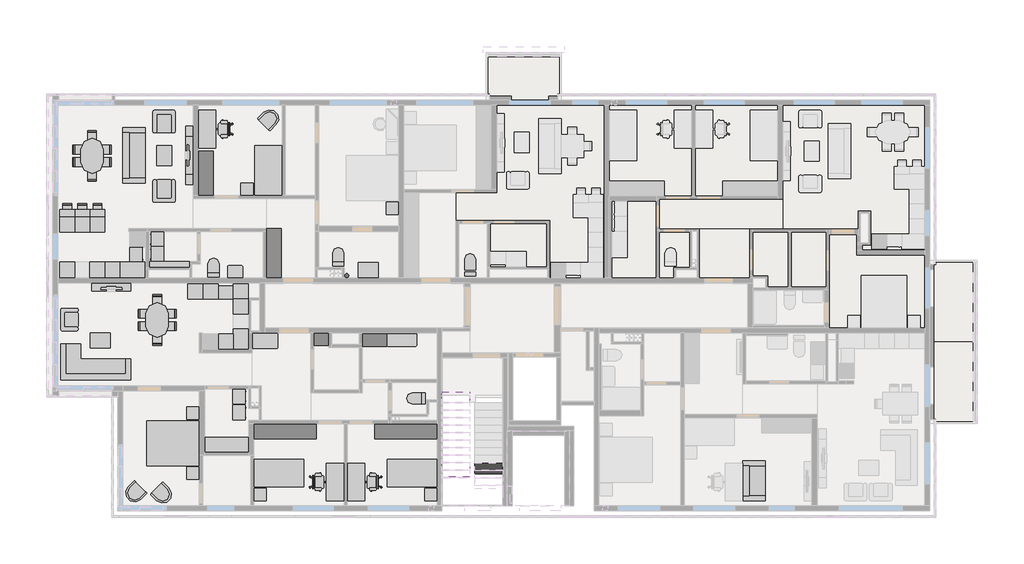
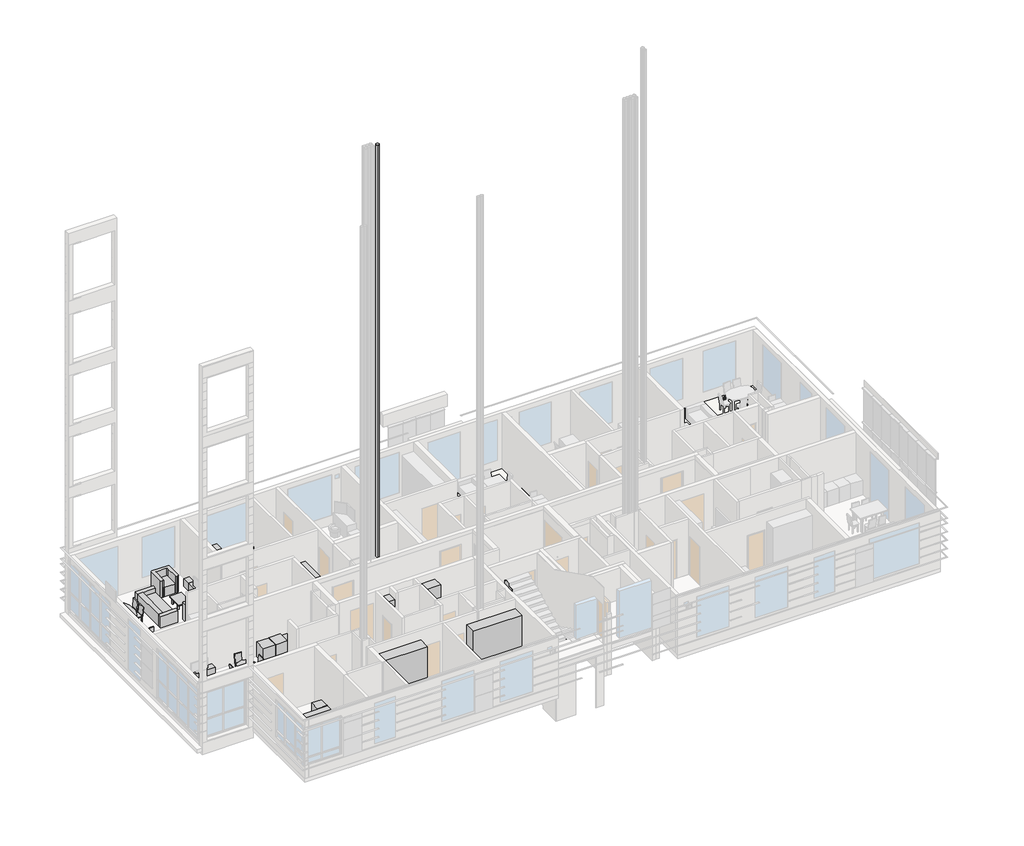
# One storey, part 12 of 14: 69 furniture elements, 16 flow terminals, 15 slabs, 2 beams.
"""IFC4 building model written with IfcOpenShell, lengths in millimetres."""

from ifc_helpers import new_model, si_unit, frame, origin, place, context, project, spatial, polyline, outline, extrude, faceted_brep, transform, mapped, element, save
from components import beam_4ecbd69a, flow_terminal_9331744f, flow_terminal_93b91fa1, flow_terminal_1200x500_5e356789, flow_terminal_600x500_7dece492, flow_terminal_600x500_14b84596, flow_terminal_600x600_a0c4e4de, flow_terminal_600x600_410a53bb, flow_terminal_600x600_aff60e7d, flow_terminal_600x600_852fcc23, flow_terminal_600x600_098c5d3b, default_cdd5ccfe, furniture_04e13bb0, furniture_eab48572, furniture_1670b5ab, furniture_2c33f32e, furniture_304a86e2, furniture_af5cb44b, furniture_a4c6fd55, furniture_1500x700_7e20c9bf, furniture_1500x700_44764a8b, furniture_1600_cdebd30f, furniture_2000x900_58b30379, furniture_2000x900_8549b6ce, furniture_2100x1800_e54d67c0, furniture_2200_2217fce5, furniture_2800_f949d8bc, furniture_500x2350_c66ae9e6, furniture_500x2350_ca4e032f, furniture_600x1000_2bf2b8fd, furniture_700x700_f96d27df, furniture_700x700_84888460, furniture_900x600_407b2405, furniture_900x900_cbd4ee99, furniture_900x_6df32213, chair_43e23103, chair_320c8197, default_57711184, default_49931e53, default_7369cba9, default_f6d1d0e9, default_af4afc4e, default_d325dcdd, default_733c536d, default_e9a682a2, default_90ec50a8, default_5d1f57f7, default_d962509c

model = new_model("IFC4")

# Units and contexts
model_context = context("Model", 3, world=origin())
ifc_project = project(units=[si_unit("LENGTHUNIT", "METRE", prefix="MILLI")], contexts=[model_context])

# Site, building, storey
site = spatial("IfcSite", under=ifc_project)
building = spatial("IfcBuilding", under=site)
storey = spatial("IfcBuildingStorey", under=building, Name="03_+7,700_Ж", Elevation=4500.0)

# Beams
placement = place(None, origin())
element("IfcBeam", 1, ObjectType="SF_марш монолитный с отделкой_3.4 : UP_300х150", at=placement, inside=storey, context=model_context, shape_type="Brep", body=[
    faceted_brep([(143230.0000002, 112432.2291223, 5920.0), (143230.0000002, 115689.9999987, 4291.1145618), (144350.0000002, 115689.9999987, 4291.1145618), (144350.0000002, 112432.2291223, 5920.0), (144350.0000002, 112289.9999987, 5920.0), (144350.0000002, 115689.9999987, 4470.0), (144350.0000002, 115689.9999987, 4620.0), (144350.0000002, 115389.9999987, 4620.0), (144350.0000002, 115389.9999987, 4770.0), (144350.0000002, 115089.9999987, 4770.0), (144350.0000002, 115089.9999987, 4920.0), (144350.0000002, 114789.9999987, 4920.0), (144350.0000002, 114789.9999987, 5070.0), (144350.0000002, 114489.9999987, 5070.0), (144350.0000002, 114489.9999987, 5220.0), (144350.0000002, 114189.9999987, 5220.0), (144350.0000002, 114189.9999987, 5370.0), (144350.0000002, 113889.9999987, 5370.0), (144350.0000002, 113889.9999987, 5520.0), (144350.0000002, 113589.9999987, 5520.0), (144350.0000002, 113589.9999987, 5670.0), (144350.0000002, 113289.9999987, 5670.0), (144350.0000002, 113289.9999987, 5820.0), (144350.0000002, 112989.9999987, 5820.0), (144350.0000002, 112989.9999987, 5970.0), (144350.0000002, 112689.9999987, 5970.0), (144350.0000002, 112689.9999987, 6120.0), (144350.0000002, 112389.9999987, 6120.0), (144350.0000002, 112289.9999987, 6120.0), (143230.0000002, 112289.9999987, 6120.0), (143230.0000002, 112389.9999987, 6120.0), (143230.0000002, 112689.9999987, 6120.0), (143230.0000002, 112689.9999987, 5970.0), (143230.0000002, 112989.9999987, 5970.0), (143230.0000002, 112989.9999987, 5820.0), (143230.0000002, 113289.9999987, 5820.0), (143230.0000002, 113289.9999987, 5670.0), (143230.0000002, 113589.9999987, 5670.0), (143230.0000002, 113589.9999987, 5520.0), (143230.0000002, 113889.9999987, 5520.0), (143230.0000002, 113889.9999987, 5370.0), (143230.0000002, 114189.9999987, 5370.0), (143230.0000002, 114189.9999987, 5220.0), (143230.0000002, 114489.9999987, 5220.0), (143230.0000002, 114489.9999987, 5070.0), (143230.0000002, 114789.9999987, 5070.0), (143230.0000002, 114789.9999987, 4920.0), (143230.0000002, 115089.9999987, 4920.0), (143230.0000002, 115089.9999987, 4770.0), (143230.0000002, 115389.9999987, 4770.0), (143230.0000002, 115389.9999987, 4620.0), (143230.0000002, 115689.9999987, 4620.0), (143230.0000002, 115689.9999987, 4470.0), (143230.0000002, 112289.9999987, 5920.0)], [[[0, 1, 2, 3]], [[4, 3, 2, 5, 6, 7, 8, 9, 10, 11, 12, 13, 14, 15, 16, 17, 18, 19, 20, 21, 22, 23, 24, 25, 26, 27, 28]], [[29, 30, 31, 32, 33, 34, 35, 36, 37, 38, 39, 40, 41, 42, 43, 44, 45, 46, 47, 48, 49, 50, 51, 52, 1, 0, 53]], [[3, 4, 53, 0]], [[7, 6, 51, 50]], [[50, 49, 8, 7]], [[49, 48, 9, 8]], [[48, 47, 10, 9]], [[47, 46, 11, 10]], [[46, 45, 12, 11]], [[45, 44, 13, 12]], [[44, 43, 14, 13]], [[43, 42, 15, 14]], [[42, 41, 16, 15]], [[41, 40, 17, 16]], [[40, 39, 18, 17]], [[39, 38, 19, 18]], [[38, 37, 20, 19]], [[37, 36, 21, 20]], [[36, 35, 22, 21]], [[35, 34, 23, 22]], [[34, 33, 24, 23]], [[33, 32, 25, 24]], [[32, 31, 26, 25]], [[28, 27, 26, 31, 30, 29]], [[53, 4, 28, 29]], [[1, 52, 51, 6, 5, 2]]]),
])
beam_shape = beam_4ecbd69a(model_context)
element("IfcBeam", 2, ObjectType="SF_марш монолитный с отделкой_3.4 : UP_300х150", at=placement, inside=storey, context=model_context, shape_type="MappedRepresentation", body=[
    mapped(beam_shape, transform((142470.0000001, 112449.9999987, 6120.0), x_axis=(0.0, 1.0, 0.0), y_axis=(-1.0, 0.0, 0.0), z_axis=(0.0, 0.0, 1.0))),
])

# Flow terminals
flow_terminal_shape = flow_terminal_9331744f(model_context)
element("IfcFlowTerminal", 3, ObjectType="SP_унитаз подвесной : SP_унитаз подвесной", at=placement, inside=storey, context=model_context, shape_type="MappedRepresentation", body=[
    mapped(flow_terminal_shape, transform((143040.0000001, 121029.9999987, 4500.0), x_axis=(1.0, 0.0, 0.0), y_axis=(0.0, 1.0, 0.0), z_axis=(0.0, 0.0, 1.0))),
])
flow_terminal_2_shape = flow_terminal_93b91fa1(model_context)
element("IfcFlowTerminal", 4, ObjectType="SP_Стояки : К", at=placement, inside=storey, context=model_context, shape_type="MappedRepresentation", body=[
    mapped(flow_terminal_2_shape, transform((138020.2403316, 120899.9999987, 0.0), x_axis=(0.0, -1.0, 0.0), y_axis=(1.0, 0.0, 0.0), z_axis=(0.0, 0.0, 1.0))),
])
flow_terminal_1200x500_shape = flow_terminal_1200x500_5e356789(model_context)
element("IfcFlowTerminal", 5, ObjectType="SP_раковина двойная_LEG : 1200x500", at=placement, inside=storey, context=model_context, shape_type="MappedRepresentation", body=[
    mapped(flow_terminal_1200x500_shape, transform((140305.0000002, 118474.9999987, 4500.0), x_axis=(1.0, 0.0, 0.0), y_axis=(0.0, 1.0, 0.0), z_axis=(0.0, 0.0, 1.0))),
])
flow_terminal_600x500_shape = flow_terminal_600x500_7dece492(model_context)
element("IfcFlowTerminal", 6, ObjectType="SP_раковина_LEG : 600x500", at=placement, inside=storey, context=model_context, shape_type="MappedRepresentation", body=[
    mapped(flow_terminal_600x500_shape, transform((133655.0000001, 120699.9999987, 4500.0), x_axis=(1.0, 0.0, 0.0), y_axis=(0.0, 1.0, 0.0), z_axis=(0.0, 0.0, 1.0))),
])
flow_terminal_600x500_2_shape = flow_terminal_600x500_14b84596(model_context)
element("IfcFlowTerminal", 7, ObjectType="SP_раковина_LEG_настраиваемая : 600x500", at=placement, inside=storey, context=model_context, shape_type="MappedRepresentation", body=[
    mapped(flow_terminal_600x500_2_shape, transform((138965.0000001, 120724.9999987, 4500.0), x_axis=(1.0, 0.0, 0.0), y_axis=(0.0, 1.0, 0.0), z_axis=(0.0, 0.0, 1.0))),
])
flow_terminal_600x600_shape = flow_terminal_600x600_a0c4e4de(model_context)
element("IfcFlowTerminal", 8, ObjectType="SP_посудомоечная машина_LEG : 600x600", at=placement, inside=storey, context=model_context, shape_type="MappedRepresentation", body=[
    mapped(flow_terminal_600x600_shape, transform((130050.0000001, 121629.9999987, 4500.0), x_axis=(0.0, -1.0, 0.0), y_axis=(1.0, 0.0, 0.0), z_axis=(0.0, 0.0, 1.0))),
])
flow_terminal_600x600_2_shape = flow_terminal_600x600_410a53bb(model_context)
element("IfcFlowTerminal", 9, ObjectType="SP_раковина кухонная_LEG : 600x600", at=placement, inside=storey, context=model_context, shape_type="MappedRepresentation", body=[
    mapped(flow_terminal_600x600_2_shape, transform((129050.3405906, 120729.9999987, 4500.0), x_axis=(1.0, 0.0, 0.0), y_axis=(0.0, 1.0, 0.0), z_axis=(0.0, 0.0, 1.0))),
])
flow_terminal_600x600_3_shape = flow_terminal_600x600_aff60e7d(model_context)
element("IfcFlowTerminal", 10, ObjectType="SP_раковина кухонная_LEG : 600x600", at=placement, inside=storey, context=model_context, shape_type="MappedRepresentation", body=[
    mapped(flow_terminal_600x600_3_shape, transform((132980.0000001, 120469.9999987, 4500.0), x_axis=(1.0, 0.0, 0.0), y_axis=(0.0, 1.0, 0.0), z_axis=(0.0, 0.0, 1.0))),
])
flow_terminal_600x600_4_shape = flow_terminal_600x600_852fcc23(model_context)
element("IfcFlowTerminal", 11, ObjectType="SP_стиральная машина_LEG : 600x600", at=placement, inside=storey, context=model_context, shape_type="MappedRepresentation", body=[
    mapped(flow_terminal_600x600_4_shape, transform((130205.0000001, 122249.9999987, 4500.0), x_axis=(0.0, -1.0, 0.0), y_axis=(1.0, 0.0, 0.0), z_axis=(0.0, 0.0, 1.0))),
])
element("IfcFlowTerminal", 12, ObjectType="SP_стиральная машина_LEG : 600x600", at=placement, inside=storey, context=model_context, shape_type="MappedRepresentation", body=[
    mapped(flow_terminal_600x600_4_shape, transform((130205.0000001, 121649.9999987, 4500.0), x_axis=(0.0, -1.0, 0.0), y_axis=(1.0, 0.0, 0.0), z_axis=(0.0, 0.0, 1.0))),
])
element("IfcFlowTerminal", 13, ObjectType="SP_стиральная машина_LEG : 600x600", at=placement, inside=storey, context=model_context, shape_type="MappedRepresentation", body=[
    mapped(flow_terminal_600x600_4_shape, transform((134165.0000001, 115974.9999987, 4500.0), x_axis=(0.0, 1.0, 0.0), y_axis=(-1.0, 0.0, 0.0), z_axis=(0.0, 0.0, 1.0))),
])
element("IfcFlowTerminal", 14, ObjectType="SP_стиральная машина_LEG : 600x600", at=placement, inside=storey, context=model_context, shape_type="MappedRepresentation", body=[
    mapped(flow_terminal_600x600_4_shape, transform((134165.0000001, 115324.9999987, 4500.0), x_axis=(0.0, 1.0, 0.0), y_axis=(-1.0, 0.0, 0.0), z_axis=(0.0, 0.0, 1.0))),
])
flow_terminal_600x600_5_shape = flow_terminal_600x600_098c5d3b(model_context)
element("IfcFlowTerminal", 15, ObjectType="SP_посудомоечная машина_LEG : 600x600", at=placement, inside=storey, context=model_context, shape_type="MappedRepresentation", body=[
    mapped(flow_terminal_600x600_5_shape, transform((133280.0000001, 120469.9999987, 4500.0), x_axis=(-1.0, 0.0, 0.0), y_axis=(0.0, -1.0, 0.0), z_axis=(0.0, 0.0, 1.0))),
])
default_shape = default_cdd5ccfe(model_context)
element("IfcFlowTerminal", 16, ObjectType="SP_унитаз : default", at=placement, inside=storey, context=model_context, shape_type="MappedRepresentation", body=[
    mapped(default_shape, transform((141250.0000001, 115894.9999987, 4500.0), x_axis=(-1.0, 0.0, 0.0), y_axis=(0.0, -1.0, 0.0), z_axis=(0.0, 0.0, 1.0))),
])
element("IfcFlowTerminal", 17, ObjectType="SP_унитаз : default", at=placement, inside=storey, context=model_context, shape_type="MappedRepresentation", body=[
    mapped(default_shape, transform((137775.0000001, 121179.9999987, 4500.0), x_axis=(0.0, 1.0, 0.0), y_axis=(-1.0, 0.0, 0.0), z_axis=(0.0, 0.0, 1.0))),
])
element("IfcFlowTerminal", 18, ObjectType="SP_унитаз : default", at=placement, inside=storey, context=model_context, shape_type="MappedRepresentation", body=[
    mapped(default_shape, transform((132795.0000001, 120749.9999987, 4500.0), x_axis=(0.0, 1.0, 0.0), y_axis=(-1.0, 0.0, 0.0), z_axis=(0.0, 0.0, 1.0))),
])

# Furniture
furniture_shape = furniture_04e13bb0(model_context)
element("IfcFurniture", 19, ObjectType="Fu_журнальный_столик_прямоугольный_LEG : 600Х800", at=placement, inside=storey, context=model_context, shape_type="MappedRepresentation", body=[
    mapped(furniture_shape, transform((128280.0000001, 118749.9999987, 4500.0), x_axis=(0.0, 1.0, 0.0), y_axis=(-1.0, 0.0, 0.0), z_axis=(0.0, 0.0, 1.0))),
])
element("IfcFurniture", 20, ObjectType="Fu_журнальный_столик_прямоугольный_LEG : 600Х800", at=placement, inside=storey, context=model_context, shape_type="MappedRepresentation", body=[
    mapped(furniture_shape, transform((131370.0000001, 125599.9999987, 4500.0), x_axis=(1.0, 0.0, 0.0), y_axis=(0.0, 1.0, 0.0), z_axis=(0.0, 0.0, 1.0))),
])
furniture_2_shape = furniture_eab48572(model_context)
element("IfcFurniture", 21, ObjectType="Fu_шкаф 1-с : Шкаф 1-створчатый", at=placement, inside=storey, context=model_context, shape_type="MappedRepresentation", body=[
    mapped(furniture_2_shape, transform((131905.0000001, 121349.9999987, 4500.0), x_axis=(-1.0, 0.0, 0.0), y_axis=(0.0, -1.0, 0.0), z_axis=(0.0, 0.0, 1.0))),
])
furniture_3_shape = furniture_1670b5ab(model_context)
element("IfcFurniture", 22, ObjectType="Fu_шкаф 1-с : Шкаф 1-створчатый", at=placement, inside=storey, context=model_context, shape_type="MappedRepresentation", body=[
    mapped(furniture_3_shape, transform((134195.0000001, 114334.9999987, 4500.0), x_axis=(-1.0, 0.0, 0.0), y_axis=(0.0, -1.0, 0.0), z_axis=(0.0, 0.0, 1.0))),
])
furniture_4_shape = furniture_2c33f32e(model_context)
element("IfcFurniture", 23, ObjectType="Fu_шкаф 1-с : Шкаф 1-створчатый", at=placement, inside=storey, context=model_context, shape_type="MappedRepresentation", body=[
    mapped(furniture_4_shape, transform((137390.0000001, 118499.9999987, 4500.0), x_axis=(-1.0, 0.0, 0.0), y_axis=(0.0, -1.0, 0.0), z_axis=(0.0, 0.0, 1.0))),
])
furniture_5_shape = furniture_304a86e2(model_context)
element("IfcFurniture", 24, ObjectType="Fu_шкаф 1-с : Шкаф 1-створчатый", at=placement, inside=storey, context=model_context, shape_type="MappedRepresentation", body=[
    mapped(furniture_5_shape, transform((139705.0000002, 118474.9999987, 4500.0), x_axis=(-1.0, 0.0, 0.0), y_axis=(0.0, -1.0, 0.0), z_axis=(0.0, 0.0, 1.0))),
])
furniture_6_shape = furniture_af5cb44b(model_context)
element("IfcFurniture", 25, ObjectType="Fu_тумба прикроватная_LEG : 500х500", at=placement, inside=storey, context=model_context, shape_type="MappedRepresentation", body=[
    mapped(furniture_6_shape, transform((141480.0000001, 112049.9999987, 4500.0), x_axis=(0.0, -1.0, 0.0), y_axis=(1.0, 0.0, 0.0), z_axis=(0.0, 0.0, 1.0))),
])
element("IfcFurniture", 26, ObjectType="Fu_тумба прикроватная_LEG : 500х500", at=placement, inside=storey, context=model_context, shape_type="MappedRepresentation", body=[
    mapped(furniture_6_shape, transform((139940.0000001, 123494.9999987, 4500.0), x_axis=(0.0, -1.0, 0.0), y_axis=(1.0, 0.0, 0.0), z_axis=(0.0, 0.0, 1.0))),
])
element("IfcFurniture", 27, ObjectType="Fu_тумба прикроватная_LEG : 500х500", at=placement, inside=storey, context=model_context, shape_type="MappedRepresentation", body=[
    mapped(furniture_6_shape, transform((134140.0000001, 124249.9999987, 4500.0), x_axis=(-1.0, 0.0, 0.0), y_axis=(0.0, -1.0, 0.0), z_axis=(0.0, 0.0, 1.0))),
])
element("IfcFurniture", 28, ObjectType="Fu_тумба прикроватная_LEG : 500х500", at=placement, inside=storey, context=model_context, shape_type="MappedRepresentation", body=[
    mapped(furniture_6_shape, transform((131985.0000001, 112899.9999987, 4500.0), x_axis=(0.0, -1.0, 0.0), y_axis=(1.0, 0.0, 0.0), z_axis=(0.0, 0.0, 1.0))),
])
furniture_7_shape = furniture_a4c6fd55(model_context)
element("IfcFurniture", 29, ObjectType="Fu_тумба прикроватная_LEG : 500х500", at=placement, inside=storey, context=model_context, shape_type="MappedRepresentation", body=[
    mapped(furniture_7_shape, transform((134655.0000001, 112049.9999987, 4500.0), x_axis=(0.0, -1.0, 0.0), y_axis=(1.0, 0.0, 0.0), z_axis=(0.0, 0.0, 1.0))),
])
element("IfcFurniture", 30, ObjectType="Fu_тумба прикроватная_LEG : 500х500", at=placement, inside=storey, context=model_context, shape_type="MappedRepresentation", body=[
    mapped(furniture_7_shape, transform((131985.0000001, 115299.9999987, 4500.0), x_axis=(0.0, 1.0, 0.0), y_axis=(-1.0, 0.0, 0.0), z_axis=(0.0, 0.0, 1.0))),
])
furniture_1500x700_shape = furniture_1500x700_7e20c9bf(model_context)
element("IfcFurniture", 31, ObjectType="Fu_стол рабочий : 1500x700", at=placement, inside=storey, context=model_context, shape_type="MappedRepresentation", body=[
    mapped(furniture_1500x700_shape, transform((139746.7939625, 112323.4018907, 4500.0), x_axis=(0.0, -1.0, 0.0), y_axis=(1.0, 0.0, 0.0), z_axis=(0.0, 0.0, 1.0))),
])
furniture_1500x700_2_shape = furniture_1500x700_44764a8b(model_context)
element("IfcFurniture", 32, ObjectType="Fu_стол рабочий : 1500x700", at=placement, inside=storey, context=model_context, shape_type="MappedRepresentation", body=[
    mapped(furniture_1500x700_2_shape, transform((136388.2060378, 112323.4018907, 4500.0), x_axis=(0.0, -1.0, 0.0), y_axis=(1.0, 0.0, 0.0), z_axis=(0.0, 0.0, 1.0))),
])
element("IfcFurniture", 33, ObjectType="Fu_стол рабочий : 1500x700", at=placement, inside=storey, context=model_context, shape_type="MappedRepresentation", body=[
    mapped(furniture_1500x700_2_shape, transform((133806.7939625, 126876.5981067, 4500.0), x_axis=(0.0, 1.0, 0.0), y_axis=(-1.0, 0.0, 0.0), z_axis=(0.0, 0.0, 1.0))),
])
furniture_1600_shape = furniture_1600_cdebd30f(model_context)
element("IfcFurniture", 34, ObjectType="Fu_диван_LEG : 1600", at=placement, inside=storey, context=model_context, shape_type="MappedRepresentation", body=[
    mapped(furniture_1600_shape, transform((154843.7770493, 111726.6262282, 4500.0), x_axis=(0.0, 1.0, 0.0), y_axis=(-1.0, 0.0, 0.0), z_axis=(0.0, 0.0, 1.0))),
])
furniture_2000x900_shape = furniture_2000x900_58b30379(model_context)
element("IfcFurniture", 35, ObjectType="Fu_кровать x1_LEG : 2000x900", at=placement, inside=storey, context=model_context, shape_type="MappedRepresentation", body=[
    mapped(furniture_2000x900_shape, transform((135170.570492, 113349.9999987, 4500.0), x_axis=(0.0, 1.0, 0.0), y_axis=(-1.0, 0.0, 0.0), z_axis=(0.0, 0.0, 1.0))),
])
furniture_2000x900_2_shape = furniture_2000x900_8549b6ce(model_context)
element("IfcFurniture", 36, ObjectType="Fu_кровать x1_LEG : 2000x900", at=placement, inside=storey, context=model_context, shape_type="MappedRepresentation", body=[
    mapped(furniture_2000x900_2_shape, transform((140964.4295083, 113349.9999987, 4500.0), x_axis=(0.0, 1.0, 0.0), y_axis=(-1.0, 0.0, 0.0), z_axis=(0.0, 0.0, 1.0))),
])
element("IfcFurniture", 37, ObjectType="Fu_кровать x1_LEG : 2000x900", at=placement, inside=storey, context=model_context, shape_type="MappedRepresentation", body=[
    mapped(furniture_2000x900_2_shape, transform((135440.0000001, 124765.5704905, 4500.0), x_axis=(1.0, 0.0, 0.0), y_axis=(0.0, 1.0, 0.0), z_axis=(0.0, 0.0, 1.0))),
])
furniture_2100x1800_shape = furniture_2100x1800_e54d67c0(model_context)
element("IfcFurniture", 38, ObjectType="Fu_кровать x2_LEG : 2100x1800", at=placement, inside=storey, context=model_context, shape_type="MappedRepresentation", body=[
    mapped(furniture_2100x1800_shape, transform((131419.4295083, 114099.9999987, 4500.0), x_axis=(0.0, -1.0, 0.0), y_axis=(1.0, 0.0, 0.0), z_axis=(0.0, 0.0, 1.0))),
])
furniture_2200_shape = furniture_2200_2217fce5(model_context)
element("IfcFurniture", 39, ObjectType="Fu_диван_LEG : 2200", at=placement, inside=storey, context=model_context, shape_type="MappedRepresentation", body=[
    mapped(furniture_2200_shape, transform((130096.7770493, 124726.6262282, 4500.0), x_axis=(0.0, 1.0, 0.0), y_axis=(-1.0, 0.0, 0.0), z_axis=(0.0, 0.0, 1.0))),
])
furniture_2800_shape = furniture_2800_f949d8bc(model_context)
element("IfcFurniture", 40, ObjectType="Fu_диван угловой_LEG : 2800", at=placement, inside=storey, context=model_context, shape_type="MappedRepresentation", body=[
    mapped(furniture_2800_shape, transform((126919.1262297, 117516.7770479, 4500.0), x_axis=(1.0, 0.0, 0.0), y_axis=(0.0, 1.0, 0.0), z_axis=(0.0, 0.0, 1.0))),
])
furniture_500x2350_shape = furniture_500x2350_c66ae9e6(model_context)
element("IfcFurniture", 41, ObjectType="Fu_TV+тумба_LEG : 500x2350", at=placement, inside=storey, context=model_context, shape_type="MappedRepresentation", body=[
    mapped(furniture_500x2350_shape, transform((128944.0981081, 119563.2229495, 4500.0), x_axis=(1.0, 0.0, 0.0), y_axis=(0.0, 1.0, 0.0), z_axis=(0.0, 0.0, 1.0))),
])
furniture_500x2350_2_shape = furniture_500x2350_ca4e032f(model_context)
element("IfcFurniture", 42, ObjectType="Fu_TV+тумба_LEG : 500x2350", at=placement, inside=storey, context=model_context, shape_type="MappedRepresentation", body=[
    mapped(furniture_500x2350_2_shape, transform((131063.222951, 125373.4018907, 4500.0), x_axis=(0.0, -1.0, 0.0), y_axis=(1.0, 0.0, 0.0), z_axis=(0.0, 0.0, 1.0))),
])
furniture_600x1000_shape = furniture_600x1000_2bf2b8fd(model_context)
element("IfcFurniture", 43, ObjectType="Fu_прикроватный_пуфик_LEG : 600x1000", at=placement, inside=storey, context=model_context, shape_type="MappedRepresentation", body=[
    mapped(furniture_600x1000_shape, transform((134735.7000001, 117980.0736374, 4500.0), x_axis=(1.0, 0.0, 0.0), y_axis=(0.0, 1.0, 0.0), z_axis=(0.0, 0.0, 1.0))),
])
furniture_700x700_shape = furniture_700x700_f96d27df(model_context)
element("IfcFurniture", 44, ObjectType="Fu_кресло_LEG : 700x700", at=placement, inside=storey, context=model_context, shape_type="MappedRepresentation", body=[
    mapped(furniture_700x700_shape, transform((134822.4206064, 127009.9923399, 4500.0), x_axis=(0.7071067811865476, -0.7071067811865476, 0.0), y_axis=(0.7071067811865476, 0.7071067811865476, 0.0), z_axis=(0.0, 0.0, 1.0))),
])
element("IfcFurniture", 45, ObjectType="Fu_кресло_LEG : 700x700", at=placement, inside=storey, context=model_context, shape_type="MappedRepresentation", body=[
    mapped(furniture_700x700_shape, transform((129863.9830793, 112170.9171114, 4500.0), x_axis=(-0.7071067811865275, 0.7071067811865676, 0.0), y_axis=(-0.7071067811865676, -0.7071067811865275, 0.0), z_axis=(0.0, 0.0, 1.0))),
])
furniture_700x700_2_shape = furniture_700x700_84888460(model_context)
element("IfcFurniture", 46, ObjectType="Fu_кресло_LEG : 700x700", at=placement, inside=storey, context=model_context, shape_type="MappedRepresentation", body=[
    mapped(furniture_700x700_2_shape, transform((130546.7911037, 112118.5282126, 4500.0), x_axis=(0.7071067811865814, 0.7071067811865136, 0.0), y_axis=(-0.7071067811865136, 0.7071067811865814, 0.0), z_axis=(0.0, 0.0, 1.0))),
])
furniture_900x600_shape = furniture_900x600_407b2405(model_context)
element("IfcFurniture", 47, ObjectType="Fu_кресло_большое_LEG : 900x600", at=placement, inside=storey, context=model_context, shape_type="MappedRepresentation", body=[
    mapped(furniture_900x600_shape, transform((127242.4263614, 118925.6999987, 4500.0), x_axis=(0.0, 1.0, 0.0), y_axis=(-1.0, 0.0, 0.0), z_axis=(0.0, 0.0, 1.0))),
])
furniture_900x900_shape = furniture_900x900_cbd4ee99(model_context)
element("IfcFurniture", 48, ObjectType="Fu_кресло_большое_LEG : 900x900", at=placement, inside=storey, context=model_context, shape_type="MappedRepresentation", body=[
    mapped(furniture_900x900_shape, transform((130705.7000001, 126750.0736374, 4500.0), x_axis=(1.0, 0.0, 0.0), y_axis=(0.0, 1.0, 0.0), z_axis=(0.0, 0.0, 1.0))),
])
element("IfcFurniture", 49, ObjectType="Fu_кресло_большое_LEG : 900x900", at=placement, inside=storey, context=model_context, shape_type="MappedRepresentation", body=[
    mapped(furniture_900x900_shape, transform((130934.3000001, 124379.92636, 4500.0), x_axis=(-1.0, 0.0, 0.0), y_axis=(0.0, -1.0, 0.0), z_axis=(0.0, 0.0, 1.0))),
])
furniture_900x_shape = furniture_900x_6df32213(model_context)
element("IfcFurniture", 50, ObjectType="Fu_кухонный стол_овальный_LEG : 900x_", at=placement, inside=storey, context=model_context, shape_type="MappedRepresentation", body=[
    mapped(furniture_900x_shape, transform((130547.1490942, 119324.9999987, 4500.0), x_axis=(0.0, 1.0, 0.0), y_axis=(-1.0, 0.0, 0.0), z_axis=(0.0, 0.0, 1.0))),
])
element("IfcFurniture", 51, ObjectType="Fu_кухонный стол_овальный_LEG : 900x_", at=placement, inside=storey, context=model_context, shape_type="MappedRepresentation", body=[
    mapped(furniture_900x_shape, transform((127947.3679156, 125879.9999987, 4500.0), x_axis=(0.0, 1.0, 0.0), y_axis=(-1.0, 0.0, 0.0), z_axis=(0.0, 0.0, 1.0))),
])
chair_shape = chair_43e23103(model_context)
element("IfcFurniture", 52, ObjectType="Fu_стул_LEG : chair", at=placement, inside=storey, context=model_context, shape_type="MappedRepresentation", body=[
    mapped(chair_shape, transform((130518.9490942, 118188.4814846, 4500.0), x_axis=(-1.0, 0.0, 0.0), y_axis=(0.0, -1.0, 0.0), z_axis=(0.0, 0.0, 1.0))),
])
element("IfcFurniture", 53, ObjectType="Fu_стул_LEG : chair", at=placement, inside=storey, context=model_context, shape_type="MappedRepresentation", body=[
    mapped(chair_shape, transform((129960.6305801, 118803.1999987, 4500.0), x_axis=(0.0, 1.0, 0.0), y_axis=(-1.0, 0.0, 0.0), z_axis=(0.0, 0.0, 1.0))),
])
element("IfcFurniture", 54, ObjectType="Fu_стул_LEG : chair", at=placement, inside=storey, context=model_context, shape_type="MappedRepresentation", body=[
    mapped(chair_shape, transform((129960.6305801, 119303.1999987, 4500.0), x_axis=(0.0, 1.0, 0.0), y_axis=(-1.0, 0.0, 0.0), z_axis=(0.0, 0.0, 1.0))),
])
element("IfcFurniture", 55, ObjectType="Fu_стул_LEG : chair", at=placement, inside=storey, context=model_context, shape_type="MappedRepresentation", body=[
    mapped(chair_shape, transform((127919.1679156, 124743.4814846, 4500.0), x_axis=(-1.0, 0.0, 0.0), y_axis=(0.0, -1.0, 0.0), z_axis=(0.0, 0.0, 1.0))),
])
element("IfcFurniture", 56, ObjectType="Fu_стул_LEG : chair", at=placement, inside=storey, context=model_context, shape_type="MappedRepresentation", body=[
    mapped(chair_shape, transform((127360.8494015, 125358.1999987, 4500.0), x_axis=(0.0, 1.0, 0.0), y_axis=(-1.0, 0.0, 0.0), z_axis=(0.0, 0.0, 1.0))),
])
element("IfcFurniture", 57, ObjectType="Fu_стул_LEG : chair", at=placement, inside=storey, context=model_context, shape_type="MappedRepresentation", body=[
    mapped(chair_shape, transform((127360.8494015, 125858.1999987, 4500.0), x_axis=(0.0, 1.0, 0.0), y_axis=(-1.0, 0.0, 0.0), z_axis=(0.0, 0.0, 1.0))),
])
chair_2_shape = chair_320c8197(model_context)
element("IfcFurniture", 58, ObjectType="Fu_стул_LEG : chair", at=placement, inside=storey, context=model_context, shape_type="MappedRepresentation", body=[
    mapped(chair_2_shape, transform((130518.9490942, 119861.5185128, 4500.0), x_axis=(-1.0, 0.0, 0.0), y_axis=(0.0, -1.0, 0.0), z_axis=(0.0, 0.0, 1.0))),
])
element("IfcFurniture", 59, ObjectType="Fu_стул_LEG : chair", at=placement, inside=storey, context=model_context, shape_type="MappedRepresentation", body=[
    mapped(chair_2_shape, transform((131133.6676084, 118803.1999987, 4500.0), x_axis=(0.0, 1.0, 0.0), y_axis=(-1.0, 0.0, 0.0), z_axis=(0.0, 0.0, 1.0))),
])
element("IfcFurniture", 60, ObjectType="Fu_стул_LEG : chair", at=placement, inside=storey, context=model_context, shape_type="MappedRepresentation", body=[
    mapped(chair_2_shape, transform((131133.6676084, 119303.1999987, 4500.0), x_axis=(0.0, 1.0, 0.0), y_axis=(-1.0, 0.0, 0.0), z_axis=(0.0, 0.0, 1.0))),
])
element("IfcFurniture", 61, ObjectType="Fu_стул_LEG : chair", at=placement, inside=storey, context=model_context, shape_type="MappedRepresentation", body=[
    mapped(chair_2_shape, transform((127919.1679156, 126416.5185128, 4500.0), x_axis=(-1.0, 0.0, 0.0), y_axis=(0.0, -1.0, 0.0), z_axis=(0.0, 0.0, 1.0))),
])
element("IfcFurniture", 62, ObjectType="Fu_стул_LEG : chair", at=placement, inside=storey, context=model_context, shape_type="MappedRepresentation", body=[
    mapped(chair_2_shape, transform((128533.8864298, 125358.1999987, 4500.0), x_axis=(0.0, 1.0, 0.0), y_axis=(-1.0, 0.0, 0.0), z_axis=(0.0, 0.0, 1.0))),
])
element("IfcFurniture", 63, ObjectType="Fu_стул_LEG : chair", at=placement, inside=storey, context=model_context, shape_type="MappedRepresentation", body=[
    mapped(chair_2_shape, transform((128533.8864298, 125858.1999987, 4500.0), x_axis=(0.0, 1.0, 0.0), y_axis=(-1.0, 0.0, 0.0), z_axis=(0.0, 0.0, 1.0))),
])
element("IfcFurniture", 64, ObjectType="Fu_стул_LEG : chair", at=placement, inside=storey, context=model_context, shape_type="MappedRepresentation", body=[
    mapped(chair_2_shape, transform((126931.8000001, 123494.9999987, 4500.0), x_axis=(-1.0, 0.0, 0.0), y_axis=(0.0, -1.0, 0.0), z_axis=(0.0, 0.0, 1.0))),
])
element("IfcFurniture", 65, ObjectType="Fu_стул_LEG : chair", at=placement, inside=storey, context=model_context, shape_type="MappedRepresentation", body=[
    mapped(chair_2_shape, transform((127531.8000001, 123494.9999987, 4500.0), x_axis=(-1.0, 0.0, 0.0), y_axis=(0.0, -1.0, 0.0), z_axis=(0.0, 0.0, 1.0))),
])
element("IfcFurniture", 66, ObjectType="Fu_стул_LEG : chair", at=placement, inside=storey, context=model_context, shape_type="MappedRepresentation", body=[
    mapped(chair_2_shape, transform((128131.8000001, 123494.9999987, 4500.0), x_axis=(-1.0, 0.0, 0.0), y_axis=(0.0, -1.0, 0.0), z_axis=(0.0, 0.0, 1.0))),
])
default_2_shape = default_57711184(model_context)
element("IfcFurniture", 67, ObjectType="Fu_кресло офисное_LEG : default", at=placement, inside=storey, context=model_context, shape_type="MappedRepresentation", body=[
    mapped(default_2_shape, transform((139023.7735686, 112435.6999987, 4500.0), x_axis=(0.0, 1.0, 0.0), y_axis=(-1.0, 0.0, 0.0), z_axis=(0.0, 0.0, 1.0))),
])
default_3_shape = default_49931e53(model_context)
element("IfcFurniture", 68, ObjectType="Fu_кухонный напольный модуль_LEG : default", at=placement, inside=storey, context=model_context, shape_type="MappedRepresentation", body=[
    mapped(default_3_shape, transform((134180.0000001, 117869.9999987, 4500.0), x_axis=(0.0, 1.0, 0.0), y_axis=(-1.0, 0.0, 0.0), z_axis=(0.0, 0.0, 1.0))),
])
default_4_shape = default_7369cba9(model_context)
element("IfcFurniture", 69, ObjectType="Fu_кухонный напольный модуль_LEG : default", at=placement, inside=storey, context=model_context, shape_type="MappedRepresentation", body=[
    mapped(default_4_shape, transform((127850.3405906, 120729.9999987, 4500.0), x_axis=(0.0, 1.0, 0.0), y_axis=(-1.0, 0.0, 0.0), z_axis=(0.0, 0.0, 1.0))),
])
element("IfcFurniture", 70, ObjectType="Fu_кухонный напольный модуль_LEG : default", at=placement, inside=storey, context=model_context, shape_type="MappedRepresentation", body=[
    mapped(default_4_shape, transform((126650.6811811, 120729.9999987, 4500.0), x_axis=(0.0, 1.0, 0.0), y_axis=(-1.0, 0.0, 0.0), z_axis=(0.0, 0.0, 1.0))),
])
element("IfcFurniture", 71, ObjectType="Fu_кухонный напольный модуль_LEG : default", at=placement, inside=storey, context=model_context, shape_type="MappedRepresentation", body=[
    mapped(default_4_shape, transform((126650.6811811, 122529.9999987, 4500.0), x_axis=(0.0, 1.0, 0.0), y_axis=(-1.0, 0.0, 0.0), z_axis=(0.0, 0.0, 1.0))),
])
element("IfcFurniture", 72, ObjectType="Fu_кухонный напольный модуль_LEG : default", at=placement, inside=storey, context=model_context, shape_type="MappedRepresentation", body=[
    mapped(default_4_shape, transform((127250.6811811, 122529.9999987, 4500.0), x_axis=(0.0, 1.0, 0.0), y_axis=(-1.0, 0.0, 0.0), z_axis=(0.0, 0.0, 1.0))),
])
element("IfcFurniture", 73, ObjectType="Fu_кухонный напольный модуль_LEG : default", at=placement, inside=storey, context=model_context, shape_type="MappedRepresentation", body=[
    mapped(default_4_shape, transform((127850.6811811, 122529.9999987, 4500.0), x_axis=(0.0, 1.0, 0.0), y_axis=(-1.0, 0.0, 0.0), z_axis=(0.0, 0.0, 1.0))),
])
default_5_shape = default_f6d1d0e9(model_context)
element("IfcFurniture", 74, ObjectType="Fu_кухонный напольный модуль_LEG : default", at=placement, inside=storey, context=model_context, shape_type="MappedRepresentation", body=[
    mapped(default_5_shape, transform((126650.6811811, 123129.9999987, 4500.0), x_axis=(0.0, 1.0, 0.0), y_axis=(-1.0, 0.0, 0.0), z_axis=(0.0, 0.0, 1.0))),
])
element("IfcFurniture", 75, ObjectType="Fu_кухонный напольный модуль_LEG : default", at=placement, inside=storey, context=model_context, shape_type="MappedRepresentation", body=[
    mapped(default_5_shape, transform((127250.6811811, 123129.9999987, 4500.0), x_axis=(0.0, 1.0, 0.0), y_axis=(-1.0, 0.0, 0.0), z_axis=(0.0, 0.0, 1.0))),
])
element("IfcFurniture", 76, ObjectType="Fu_кухонный напольный модуль_LEG : default", at=placement, inside=storey, context=model_context, shape_type="MappedRepresentation", body=[
    mapped(default_5_shape, transform((127850.6811811, 123129.9999987, 4500.0), x_axis=(0.0, 1.0, 0.0), y_axis=(-1.0, 0.0, 0.0), z_axis=(0.0, 0.0, 1.0))),
])
default_6_shape = default_af4afc4e(model_context)
element("IfcFurniture", 77, ObjectType="Fu_кухонный напольный модуль_LEG : default", at=placement, inside=storey, context=model_context, shape_type="MappedRepresentation", body=[
    mapped(default_6_shape, transform((130050.0000001, 120729.9999987, 4500.0), x_axis=(-1.0, 0.0, 0.0), y_axis=(0.0, -1.0, 0.0), z_axis=(0.0, 0.0, 1.0))),
])
default_7_shape = default_d325dcdd(model_context)
element("IfcFurniture", 78, ObjectType="Fu_шкаф встроенный_LEG : default", at=placement, inside=storey, context=model_context, shape_type="MappedRepresentation", body=[
    mapped(default_7_shape, transform((136895.0000001, 114879.9999987, 4500.0), x_axis=(-1.0, 0.0, 0.0), y_axis=(0.0, -1.0, 0.0), z_axis=(0.0, 0.0, 1.0))),
])
default_8_shape = default_733c536d(model_context)
element("IfcFurniture", 79, ObjectType="Fu_шкаф встроенный_LEG : default", at=placement, inside=storey, context=model_context, shape_type="MappedRepresentation", body=[
    mapped(default_8_shape, transform((139240.0000001, 114879.9999987, 4500.0), x_axis=(1.0, 0.0, 0.0), y_axis=(0.0, 1.0, 0.0), z_axis=(0.0, 0.0, 1.0))),
])
default_9_shape = default_e9a682a2(model_context)
element("IfcFurniture", 80, ObjectType="Fu_шкаф встроенный_LEG : default", at=placement, inside=storey, context=model_context, shape_type="MappedRepresentation", body=[
    mapped(default_9_shape, transform((134905.0000001, 122674.9999987, 4500.0), x_axis=(0.0, -1.0, 0.0), y_axis=(1.0, 0.0, 0.0), z_axis=(0.0, 0.0, 1.0))),
])
default_10_shape = default_90ec50a8(model_context)
element("IfcFurniture", 81, ObjectType="Fu_шкаф встроенный_LEG : default", at=placement, inside=storey, context=model_context, shape_type="MappedRepresentation", body=[
    mapped(default_10_shape, transform((132190.0000001, 125779.9999987, 4500.0), x_axis=(0.0, -1.0, 0.0), y_axis=(1.0, 0.0, 0.0), z_axis=(0.0, 0.0, 1.0))),
])
default_11_shape = default_5d1f57f7(model_context)
element("IfcFurniture", 82, ObjectType="Fu_кухонный напольный модуль_LEG : default", at=placement, inside=storey, context=model_context, shape_type="MappedRepresentation", body=[
    mapped(default_11_shape, transform((132980.0000001, 117869.9999987, 4500.0), x_axis=(1.0, 0.0, 0.0), y_axis=(0.0, 1.0, 0.0), z_axis=(0.0, 0.0, 1.0))),
])
element("IfcFurniture", 83, ObjectType="Fu_кухонный напольный модуль_LEG : default", at=placement, inside=storey, context=model_context, shape_type="MappedRepresentation", body=[
    mapped(default_11_shape, transform((133580.0000001, 119269.9999987, 4500.0), x_axis=(1.0, 0.0, 0.0), y_axis=(0.0, 1.0, 0.0), z_axis=(0.0, 0.0, 1.0))),
])
element("IfcFurniture", 84, ObjectType="Fu_кухонный напольный модуль_LEG : default", at=placement, inside=storey, context=model_context, shape_type="MappedRepresentation", body=[
    mapped(default_11_shape, transform((133580.0000001, 119869.9999987, 4500.0), x_axis=(1.0, 0.0, 0.0), y_axis=(0.0, 1.0, 0.0), z_axis=(0.0, 0.0, 1.0))),
])
element("IfcFurniture", 85, ObjectType="Fu_кухонный напольный модуль_LEG : default", at=placement, inside=storey, context=model_context, shape_type="MappedRepresentation", body=[
    mapped(default_11_shape, transform((131760.0000001, 119869.9999987, 4500.0), x_axis=(1.0, 0.0, 0.0), y_axis=(0.0, 1.0, 0.0), z_axis=(0.0, 0.0, 1.0))),
])
default_12_shape = default_d962509c(model_context)
element("IfcFurniture", 86, ObjectType="Fu_кресло офисное_LEG : default", at=placement, inside=storey, context=model_context, shape_type="MappedRepresentation", body=[
    mapped(default_12_shape, transform((137111.2264317, 112435.6999987, 4500.0), x_axis=(0.0, 1.0, 0.0), y_axis=(-1.0, 0.0, 0.0), z_axis=(0.0, 0.0, 1.0))),
])
element("IfcFurniture", 87, ObjectType="Fu_кресло офисное_LEG : default", at=placement, inside=storey, context=model_context, shape_type="MappedRepresentation", body=[
    mapped(default_12_shape, transform((133083.7735686, 126764.2999987, 4500.0), x_axis=(0.0, -1.0, 0.0), y_axis=(1.0, 0.0, 0.0), z_axis=(0.0, 0.0, 1.0))),
])

# Slabs
element("IfcSlab", 88, ObjectType="FIN_100_ТИП_23_Балконы-------", at=placement, inside=storey, context=model_context, shape_type="SweptSolid", body=[
    extrude(outline(polyline([(161540.0000001, 121049.9999987), (161540.0000001, 121249.9999987), (161630.0000001, 121249.9999987), (161630.0000001, 121324.9999987), (163205.0000001, 121324.9999987), (163205.0000001, 118149.9999987), (161540.0000001, 118149.9999987), (161540.0000001, 119549.9999987), (161380.0000001, 119549.9999987), (161380.0000001, 121049.9999987), (161540.0000001, 121049.9999987)])), frame((0.0, 0.0, 4400.0), z_axis=(0.0, 0.0, 1.0), x_axis=(1.0, 0.0, 0.0)), (0.0, 0.0, 1.0), 100.0),
])
element("IfcSlab", 89, ObjectType="FIN_100_ТИП_23_Балконы-------", at=placement, inside=storey, context=model_context, shape_type="SweptSolid", body=[
    extrude(outline(polyline([(161540.0000001, 117149.9999987), (161540.0000001, 118149.9999987), (163205.0000001, 118149.9999987), (163205.0000001, 114974.9999987), (161630.0000001, 114974.9999987), (161630.0000001, 115049.9999987), (161540.0000001, 115049.9999987), (161540.0000001, 115649.9999987), (161380.0000001, 115649.9999987), (161380.0000001, 117149.9999987), (161540.0000001, 117149.9999987)])), frame((0.0, 0.0, 4400.0), z_axis=(0.0, 0.0, 1.0), x_axis=(1.0, 0.0, 0.0)), (0.0, 0.0, 1.0), 100.0),
])
element("IfcSlab", 90, ObjectType="FIN_100_ТИП_23_Балконы-------", at=placement, inside=storey, context=model_context, shape_type="SweptSolid", body=[
    extrude(outline(polyline([(144680.0000001, 127959.9999987), (143829.5000001, 127959.9999987), (143829.5000001, 128049.9999987), (143754.5000001, 128049.9999987), (143754.5000001, 129624.9999987), (146604.5000001, 129624.9999987), (146604.5000001, 128049.9999987), (146529.5000001, 128049.9999987), (146529.5000001, 127959.9999987), (146180.0000001, 127959.9999987), (146180.0000001, 127799.9999987), (144680.0000001, 127799.9999987), (144680.0000001, 127959.9999987)])), frame((0.0, 0.0, 4400.0), z_axis=(0.0, 0.0, 1.0), x_axis=(1.0, 0.0, 0.0)), (0.0, 0.0, 1.0), 100.0),
])
element("IfcSlab", 91, ObjectType="FIN_100_Тип 19_Квартиры-------", at=placement, inside=storey, context=model_context, shape_type="SweptSolid", body=[
    extrude(outline(polyline([(155730.0000001, 122654.9999987), (155730.0000001, 120224.9999987), (154910.0000001, 120224.9999987), (154910.0000001, 120779.9999987), (154205.0000001, 120779.9999987), (154205.0000001, 122654.9999987), (155730.0000001, 122654.9999987)])), frame((0.0, 0.0, 4400.0), z_axis=(0.0, 0.0, 1.0), x_axis=(1.0, 0.0, 0.0)), (0.0, 0.0, 1.0), 100.0),
])
element("IfcSlab", 92, ObjectType="FIN_100_Тип 19_Квартиры-------", at=placement, inside=storey, context=model_context, shape_type="Brep", body=[
    faceted_brep([(155730.0000001, 122654.9999987, 4400.0), (157255.0000001, 122654.9999987, 4400.0), (157255.0000001, 120224.9999987, 4400.0), (157170.0000001, 120224.9999987, 4400.0), (155730.0000001, 120224.9999987, 4400.0), (155730.0000001, 122654.9999987, 4500.0), (155730.0000001, 120224.9999987, 4500.0), (157170.0000001, 120224.9999987, 4500.0), (157255.0000001, 120224.9999987, 4500.0), (157255.0000001, 122654.9999987, 4500.0)], [[[0, 1, 2, 3, 4]], [[5, 6, 7, 8, 9]], [[1, 0, 5, 9]], [[2, 1, 9, 8]], [[4, 3, 2, 8, 7, 6]], [[0, 4, 6, 5]]]),
])
element("IfcSlab", 93, ObjectType="FIN_100_Тип 19_Квартиры-------", at=placement, inside=storey, context=model_context, shape_type="SweptSolid", body=[
    extrude(outline(polyline([(148590.0000001, 123769.9999987), (148590.0000001, 127599.9999987), (151890.0000001, 127599.9999987), (151890.0000001, 123979.9999987), (150465.0000001, 123979.9999987), (150465.0000001, 123769.9999987), (148590.0000001, 123769.9999987)])), frame((0.0, 0.0, 4400.0), z_axis=(0.0, 0.0, 1.0), x_axis=(1.0, 0.0, 0.0)), (0.0, 0.0, 1.0), 100.0),
])
element("IfcSlab", 94, ObjectType="FIN_100_Тип 19_Квартиры-------", at=placement, inside=storey, context=model_context, shape_type="SweptSolid", body=[
    extrude(outline(polyline([(151890.0000001, 127599.9999987), (155523.0644964, 127599.9999987), (155523.0644964, 123979.9999987), (151890.0000001, 123979.9999987), (151890.0000001, 127599.9999987)])), frame((0.0, 0.0, 4400.0), z_axis=(0.0, 0.0, 1.0), x_axis=(1.0, 0.0, 0.0)), (0.0, 0.0, 1.0), 100.0),
])
element("IfcSlab", 95, ObjectType="FIN_100_Тип 19_Квартиры-------", at=placement, inside=storey, context=model_context, shape_type="Brep", body=[
    faceted_brep([(150465.0000001, 123979.9999987, 4400.0), (151890.0000001, 123979.9999987, 4400.0), (155523.0644964, 123979.9999987, 4400.0), (155523.0644964, 122654.9999987, 4400.0), (154205.0000001, 122654.9999987, 4400.0), (152175.0000001, 122654.9999987, 4400.0), (151805.0000001, 122654.9999987, 4400.0), (151805.0000001, 122529.9999987, 4400.0), (150465.0000001, 122529.9999987, 4400.0), (150465.0000001, 123769.9999987, 4400.0), (155523.0644964, 123979.9999987, 4500.0), (151890.0000001, 123979.9999987, 4500.0), (150465.0000001, 123979.9999987, 4500.0), (150465.0000001, 123769.9999987, 4500.0), (150465.0000001, 122529.9999987, 4500.0), (151805.0000001, 122529.9999987, 4500.0), (151805.0000001, 122654.9999987, 4500.0), (152175.0000001, 122654.9999987, 4500.0), (154205.0000001, 122654.9999987, 4500.0), (155523.0644964, 122654.9999987, 4500.0)], [[[0, 1, 2, 3, 4, 5, 6, 7, 8, 9]], [[10, 11, 12, 13, 14, 15, 16, 17, 18, 19]], [[2, 1, 0, 12, 11, 10]], [[3, 2, 10, 19]], [[3, 19, 18, 17, 16, 6, 5, 4]], [[7, 6, 16, 15]], [[8, 7, 15, 14]], [[0, 9, 8, 14, 13, 12]]]),
])
element("IfcSlab", 96, ObjectType="FIN_100_Тип 19_Квартиры-------", at=placement, inside=storey, context=model_context, shape_type="Brep", body=[
    faceted_brep([(161180.0000001, 127599.9999987, 4400.0), (161180.0000001, 121614.9999987, 4400.0), (158525.0000001, 121614.9999987, 4400.0), (158525.0000001, 122024.9999987, 4400.0), (159035.0000001, 122024.9999987, 4400.0), (159035.0000001, 123384.9999987, 4400.0), (158525.0000001, 123384.9999987, 4400.0), (158525.0000001, 122654.9999987, 4400.0), (157255.0000001, 122654.9999987, 4400.0), (155523.0644964, 122654.9999987, 4400.0), (155523.0644964, 123979.9999987, 4400.0), (155523.0644964, 127599.9999987, 4400.0), (161180.0000001, 121614.9999987, 4500.0), (161180.0000001, 127599.9999987, 4500.0), (155523.0644964, 127599.9999987, 4500.0), (155523.0644964, 123979.9999987, 4500.0), (155523.0644964, 122654.9999987, 4500.0), (157255.0000001, 122654.9999987, 4500.0), (158525.0000001, 122654.9999987, 4500.0), (158525.0000001, 123384.9999987, 4500.0), (159035.0000001, 123384.9999987, 4500.0), (159035.0000001, 122024.9999987, 4500.0), (158525.0000001, 122024.9999987, 4500.0), (158525.0000001, 121614.9999987, 4500.0)], [[[0, 1, 2, 3, 4, 5, 6, 7, 8, 9, 10, 11]], [[12, 13, 14, 15, 16, 17, 18, 19, 20, 21, 22, 23]], [[1, 0, 13, 12]], [[2, 1, 12, 23]], [[3, 2, 23, 22]], [[4, 3, 22, 21]], [[5, 4, 21, 20]], [[6, 5, 20, 19]], [[7, 6, 19, 18]], [[16, 9, 8, 7, 18, 17]], [[11, 10, 9, 16, 15, 14]], [[0, 11, 14, 13]]]),
])
element("IfcSlab", 97, ObjectType="FIN_100_Тип 19_Квартиры-------", at=placement, inside=storey, context=model_context, shape_type="Brep", body=[
    faceted_brep([(148390.0000001, 127599.9999987, 4400.0), (148390.0000001, 120699.9999987, 4400.0), (146220.0000001, 120699.9999987, 4400.0), (146220.0000001, 121129.9999987, 4400.0), (146095.0000001, 121129.9999987, 4400.0), (146095.0000001, 122874.9999987, 4400.0), (143715.0000001, 122874.9999987, 4400.0), (142590.0000001, 122874.9999987, 4400.0), (142465.0000001, 122874.9999987, 4400.0), (142465.0000001, 124104.9999987, 4400.0), (144100.0000001, 124104.9999987, 4400.0), (144100.0000001, 127599.9999987, 4400.0), (144610.0000001, 127599.9999987, 4400.0), (144610.0000001, 127719.9999987, 4400.0), (146250.0000001, 127719.9999987, 4400.0), (146250.0000001, 127599.9999987, 4400.0), (148390.0000001, 120699.9999987, 4500.0), (148390.0000001, 127599.9999987, 4500.0), (146250.0000001, 127599.9999987, 4500.0), (146250.0000001, 127719.9999987, 4500.0), (144610.0000001, 127719.9999987, 4500.0), (144610.0000001, 127599.9999987, 4500.0), (144100.0000001, 127599.9999987, 4500.0), (144100.0000001, 124104.9999987, 4500.0), (142465.0000001, 124104.9999987, 4500.0), (142465.0000001, 122874.9999987, 4500.0), (142590.0000001, 122874.9999987, 4500.0), (143715.0000001, 122874.9999987, 4500.0), (146095.0000001, 122874.9999987, 4500.0), (146095.0000001, 121129.9999987, 4500.0), (146220.0000001, 121129.9999987, 4500.0), (146220.0000001, 120699.9999987, 4500.0)], [[[0, 1, 2, 3, 4, 5, 6, 7, 8, 9, 10, 11, 12, 13, 14, 15]], [[16, 17, 18, 19, 20, 21, 22, 23, 24, 25, 26, 27, 28, 29, 30, 31]], [[1, 0, 17, 16]], [[2, 1, 16, 31]], [[3, 2, 31, 30]], [[5, 28, 27, 26, 25, 8, 7, 6]], [[9, 8, 25, 24]], [[10, 9, 24, 23]], [[11, 10, 23, 22]], [[0, 15, 18, 17]], [[12, 11, 22, 21]], [[13, 12, 21, 20]], [[14, 13, 20, 19]], [[15, 14, 19, 18]], [[4, 3, 30, 29]], [[5, 4, 29, 28]]]),
])
element("IfcSlab", 98, ObjectType="FIN_100_Тип 19_Квартиры-------", at=placement, inside=storey, context=model_context, shape_type="Brep", body=[
    faceted_brep([(161180.0000001, 119479.9999987, 4400.0), (161180.0000001, 118699.9999987, 4400.0), (157170.0000001, 118699.9999987, 4400.0), (157170.0000001, 120224.9999987, 4400.0), (157255.0000001, 120224.9999987, 4400.0), (157255.0000001, 122654.9999987, 4400.0), (158525.0000001, 122654.9999987, 4400.0), (158525.0000001, 122024.9999987, 4400.0), (158525.0000001, 121614.9999987, 4400.0), (161180.0000001, 121614.9999987, 4400.0), (161180.0000001, 121119.9999987, 4400.0), (161300.0000001, 121119.9999987, 4400.0), (161300.0000001, 119479.9999987, 4400.0), (161180.0000001, 118699.9999987, 4500.0), (161180.0000001, 119479.9999987, 4500.0), (161300.0000001, 119479.9999987, 4500.0), (161300.0000001, 121119.9999987, 4500.0), (161180.0000001, 121119.9999987, 4500.0), (161180.0000001, 121614.9999987, 4500.0), (158525.0000001, 121614.9999987, 4500.0), (158525.0000001, 122024.9999987, 4500.0), (158525.0000001, 122654.9999987, 4500.0), (157255.0000001, 122654.9999987, 4500.0), (157255.0000001, 120224.9999987, 4500.0), (157170.0000001, 120224.9999987, 4500.0), (157170.0000001, 118699.9999987, 4500.0)], [[[0, 1, 2, 3, 4, 5, 6, 7, 8, 9, 10, 11, 12]], [[13, 14, 15, 16, 17, 18, 19, 20, 21, 22, 23, 24, 25]], [[1, 0, 14, 13]], [[2, 1, 13, 25]], [[3, 2, 25, 24]], [[4, 3, 24, 23]], [[5, 4, 23, 22]], [[6, 5, 22, 21]], [[8, 7, 6, 21, 20, 19]], [[9, 8, 19, 18]], [[10, 9, 18, 17]], [[11, 10, 17, 16]], [[12, 11, 16, 15]], [[0, 12, 15, 14]]]),
])
element("IfcSlab", 99, ObjectType="FIN_100_Тип 19_Квартиры-------", at=placement, inside=storey, context=model_context, shape_type="Brep", body=[
    faceted_brep([(152375.0000001, 120699.9999987, 4400.0), (152175.0000001, 120699.9999987, 4400.0), (152175.0000001, 122654.9999987, 4400.0), (154205.0000001, 122654.9999987, 4400.0), (154205.0000001, 120779.9999987, 4400.0), (154205.0000001, 120699.9999987, 4400.0), (153525.0000001, 120699.9999987, 4400.0), (153525.0000001, 120599.9999987, 4400.0), (152375.0000001, 120599.9999987, 4400.0), (152375.0000001, 120699.9999987, 4500.0), (152375.0000001, 120599.9999987, 4500.0), (153525.0000001, 120599.9999987, 4500.0), (153525.0000001, 120699.9999987, 4500.0), (154205.0000001, 120699.9999987, 4500.0), (154205.0000001, 120779.9999987, 4500.0), (154205.0000001, 122654.9999987, 4500.0), (152175.0000001, 122654.9999987, 4500.0), (152175.0000001, 120699.9999987, 4500.0)], [[[0, 1, 2, 3, 4, 5, 6, 7, 8]], [[9, 10, 11, 12, 13, 14, 15, 16, 17]], [[1, 0, 9, 17]], [[2, 1, 17, 16]], [[3, 2, 16, 15]], [[5, 4, 3, 15, 14, 13]], [[6, 5, 13, 12]], [[7, 6, 12, 11]], [[8, 7, 11, 10]], [[0, 8, 10, 9]]]),
])
element("IfcSlab", 100, ObjectType="FIN_100_Тип 20_Квартиры_С/У-------", at=placement, inside=storey, context=model_context, shape_type="SweptSolid", body=[
    extrude(outline(polyline([(150465.0000001, 120699.9999987), (148690.0000001, 120699.9999987), (148690.0000001, 123769.9999987), (150465.0000001, 123769.9999987), (150465.0000001, 120699.9999987)])), frame((0.0, 0.0, 4400.0), z_axis=(0.0, 0.0, 1.0), x_axis=(1.0, 0.0, 0.0)), (0.0, 0.0, 1.0), 100.0),
])
element("IfcSlab", 101, ObjectType="FIN_100_Тип 20_Квартиры_С/У-------", at=placement, inside=storey, context=model_context, shape_type="SweptSolid", body=[
    extrude(outline(polyline([(151170.0000001, 120699.9999987), (150465.0000001, 120699.9999987), (150465.0000001, 122529.9999987), (151805.0000001, 122529.9999987), (151805.0000001, 121129.9999987), (151170.0000001, 121129.9999987), (151170.0000001, 120699.9999987)])), frame((0.0, 0.0, 4400.0), z_axis=(0.0, 0.0, 1.0), x_axis=(1.0, 0.0, 0.0)), (0.0, 0.0, 1.0), 100.0),
])
element("IfcSlab", 102, ObjectType="FIN_100_Тип 20_Квартиры_С/У-------", at=placement, inside=storey, context=model_context, shape_type="SweptSolid", body=[
    extrude(outline(polyline([(146095.0000001, 122874.9999987), (146095.0000001, 121129.9999987), (143715.0000001, 121129.9999987), (143715.0000001, 122874.9999987), (146095.0000001, 122874.9999987)])), frame((0.0, 0.0, 4400.0), z_axis=(0.0, 0.0, 1.0), x_axis=(1.0, 0.0, 0.0)), (0.0, 0.0, 1.0), 100.0),
])

save(model, "model.ifc")
